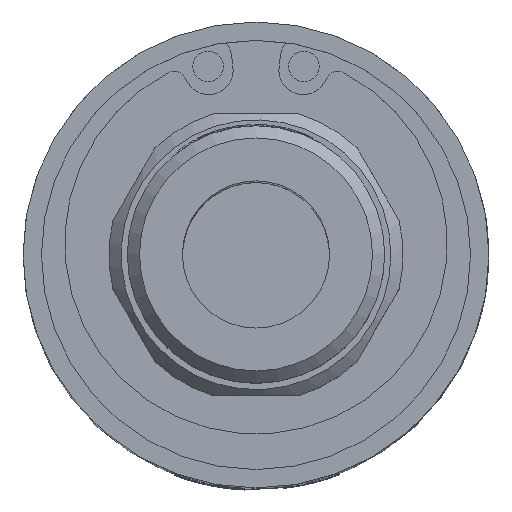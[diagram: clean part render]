
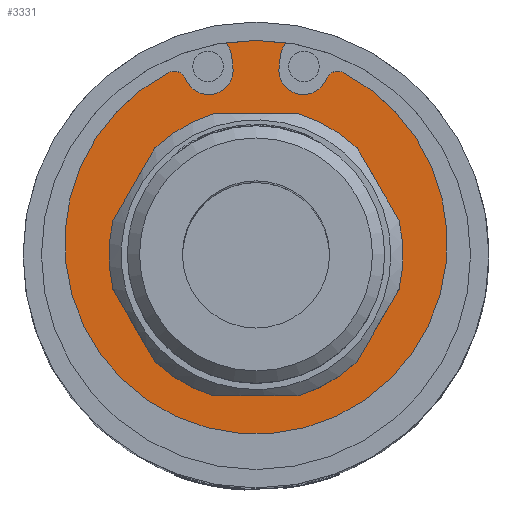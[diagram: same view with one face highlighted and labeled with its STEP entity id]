
A CAD part, top view. The second image highlights one B-rep face of the part: STEP entity #3331.
In plain terms, the highlighted planar face has unit normal (0, 0, 1).
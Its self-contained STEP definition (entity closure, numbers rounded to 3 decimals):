
#174=FACE_BOUND('',#6045,.T.);
#175=FACE_BOUND('',#6046,.T.);
#1391=LINE('',#42050,#2246);
#1392=LINE('',#42062,#2247);
#2246=VECTOR('',#24236,1.);
#2247=VECTOR('',#24247,1.);
#3331=ADVANCED_FACE('',(#174,#175),#3984,.T.);
#3984=PLANE('',#22280);
#6045=EDGE_LOOP('',(#10564,#10565,#10566,#10567,#10568,#10569,#10570,#10571,
#10572,#10573));
#6046=EDGE_LOOP('',(#10574));
#6517=CIRCLE('',#22223,18.5);
#6540=CIRCLE('',#22272,2.);
#6541=CIRCLE('',#22273,2.);
#6542=CIRCLE('',#22274,2.);
#6543=CIRCLE('',#22275,1.);
#6544=CIRCLE('',#22276,15.6);
#6545=CIRCLE('',#22277,1.);
#6546=CIRCLE('',#22278,2.);
#6547=CIRCLE('',#22279,9.25);
#10564=ORIENTED_EDGE('',*,*,#17659,.F.);
#10565=ORIENTED_EDGE('',*,*,#17611,.T.);
#10566=ORIENTED_EDGE('',*,*,#17660,.T.);
#10567=ORIENTED_EDGE('',*,*,#17661,.F.);
#10568=ORIENTED_EDGE('',*,*,#17662,.F.);
#10569=ORIENTED_EDGE('',*,*,#17663,.T.);
#10570=ORIENTED_EDGE('',*,*,#17664,.F.);
#10571=ORIENTED_EDGE('',*,*,#17665,.F.);
#10572=ORIENTED_EDGE('',*,*,#17666,.T.);
#10573=ORIENTED_EDGE('',*,*,#17667,.T.);
#10574=ORIENTED_EDGE('',*,*,#17668,.F.);
#14651=VERTEX_POINT('',#41928);
#14652=VERTEX_POINT('',#41930);
#14691=VERTEX_POINT('',#42047);
#14692=VERTEX_POINT('',#42049);
#14693=VERTEX_POINT('',#42051);
#14694=VERTEX_POINT('',#42053);
#14695=VERTEX_POINT('',#42055);
#14696=VERTEX_POINT('',#42057);
#14697=VERTEX_POINT('',#42059);
#14698=VERTEX_POINT('',#42061);
#14699=VERTEX_POINT('',#42064);
#17611=EDGE_CURVE('',#14652,#14651,#6517,.T.);
#17659=EDGE_CURVE('',#14652,#14691,#6540,.T.);
#17660=EDGE_CURVE('',#14651,#14692,#6541,.T.);
#17661=EDGE_CURVE('',#14693,#14692,#1391,.T.);
#17662=EDGE_CURVE('',#14694,#14693,#6542,.T.);
#17663=EDGE_CURVE('',#14694,#14695,#6543,.T.);
#17664=EDGE_CURVE('',#14696,#14695,#6544,.T.);
#17665=EDGE_CURVE('',#14697,#14696,#6545,.T.);
#17666=EDGE_CURVE('',#14697,#14698,#6546,.T.);
#17667=EDGE_CURVE('',#14698,#14691,#1392,.T.);
#17668=EDGE_CURVE('',#14699,#14699,#6547,.T.);
#22223=AXIS2_PLACEMENT_3D('',#41929,#24113,#24114);
#22272=AXIS2_PLACEMENT_3D('',#42046,#24232,#24233);
#22273=AXIS2_PLACEMENT_3D('',#42048,#24234,#24235);
#22274=AXIS2_PLACEMENT_3D('',#42052,#24237,#24238);
#22275=AXIS2_PLACEMENT_3D('',#42054,#24239,#24240);
#22276=AXIS2_PLACEMENT_3D('',#42056,#24241,#24242);
#22277=AXIS2_PLACEMENT_3D('',#42058,#24243,#24244);
#22278=AXIS2_PLACEMENT_3D('',#42060,#24245,#24246);
#22279=AXIS2_PLACEMENT_3D('',#42063,#24248,#24249);
#22280=AXIS2_PLACEMENT_3D('',#42065,#24250,#24251);
#24113=DIRECTION('',(0.,0.,1.));
#24114=DIRECTION('',(1.,0.,0.));
#24232=DIRECTION('',(0.,0.,1.));
#24233=DIRECTION('',(-1.,0.,0.));
#24234=DIRECTION('',(0.,0.,-1.));
#24235=DIRECTION('',(1.,0.,0.));
#24236=DIRECTION('',(-0.122,0.993,0.));
#24237=DIRECTION('',(0.,0.,1.));
#24238=DIRECTION('',(-1.,0.,0.));
#24239=DIRECTION('',(0.,0.,1.));
#24240=DIRECTION('',(1.,0.,0.));
#24241=DIRECTION('',(0.,0.,-1.));
#24242=DIRECTION('',(1.,0.,0.));
#24243=DIRECTION('',(0.,0.,-1.));
#24244=DIRECTION('',(-1.,0.,0.));
#24245=DIRECTION('',(0.,0.,-1.));
#24246=DIRECTION('',(1.,0.,0.));
#24247=DIRECTION('',(0.122,0.993,0.));
#24248=DIRECTION('',(0.,0.,1.));
#24249=DIRECTION('',(1.,0.,0.));
#24250=DIRECTION('',(0.,0.,1.));
#24251=DIRECTION('',(1.,0.,0.));
#41928=CARTESIAN_POINT('',(-4.464,17.953,55.5));
#41929=CARTESIAN_POINT('',(0.,0.,55.5));
#41930=CARTESIAN_POINT('',(4.464,17.953,55.5));
#42046=CARTESIAN_POINT('',(3.981,16.013,55.5));
#42047=CARTESIAN_POINT('',(1.996,16.256,55.5));
#42048=CARTESIAN_POINT('',(-3.981,16.013,55.5));
#42049=CARTESIAN_POINT('',(-1.996,16.256,55.5));
#42050=CARTESIAN_POINT('',(-0.061,0.496,55.5));
#42051=CARTESIAN_POINT('',(-1.882,15.328,55.5));
#42052=CARTESIAN_POINT('',(-3.867,15.084,55.5));
#42053=CARTESIAN_POINT('',(-5.73,14.356,55.5));
#42054=CARTESIAN_POINT('',(-6.661,13.992,55.5));
#42055=CARTESIAN_POINT('',(-7.118,14.882,55.5));
#42056=CARTESIAN_POINT('',(0.,1.,55.5));
#42057=CARTESIAN_POINT('',(7.118,14.882,55.5));
#42058=CARTESIAN_POINT('',(6.661,13.992,55.5));
#42059=CARTESIAN_POINT('',(5.73,14.356,55.5));
#42060=CARTESIAN_POINT('',(3.867,15.084,55.5));
#42061=CARTESIAN_POINT('',(1.882,15.328,55.5));
#42062=CARTESIAN_POINT('',(0.061,0.496,55.5));
#42063=CARTESIAN_POINT('',(0.,0.,55.5));
#42064=CARTESIAN_POINT('',(9.25,0.,55.5));
#42065=CARTESIAN_POINT('',(0.,0.,55.5));
